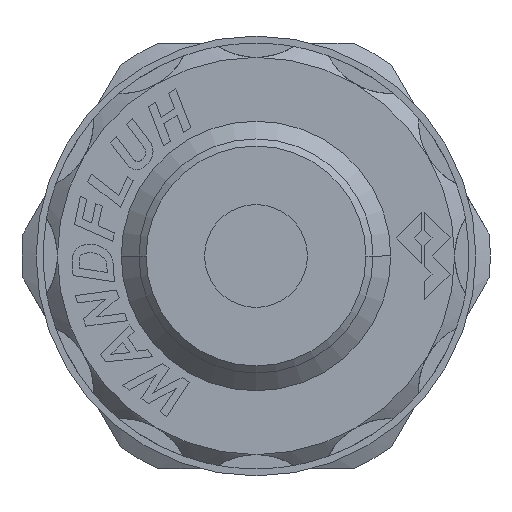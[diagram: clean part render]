
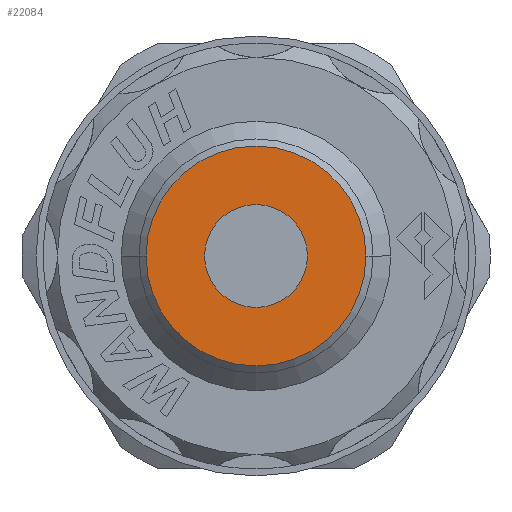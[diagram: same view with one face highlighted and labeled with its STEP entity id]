
A CAD part, left-side view. The second image highlights one B-rep face of the part: STEP entity #22084.
In plain terms, the highlighted planar face has unit normal (-1, 0, 0).
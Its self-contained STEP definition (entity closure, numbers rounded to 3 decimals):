
#6 = EDGE_LOOP ( 'NONE', ( #19441, #19682 ) ) ;
#4300 = CIRCLE ( 'NONE', #11544, 3.625 ) ;
#4573 = CIRCLE ( 'NONE', #11657, 7.75 ) ;
#6349 = CARTESIAN_POINT ( 'NONE',  ( -70.9, 0., 0. ) ) ;
#6351 = DIRECTION ( 'NONE',  ( -1., 0., 0. ) ) ;
#6353 = DIRECTION ( 'NONE',  ( 0., -1., 0. ) ) ;
#6403 = CARTESIAN_POINT ( 'NONE',  ( -70.9, -3.625, 0. ) ) ;
#6512 = CARTESIAN_POINT ( 'NONE',  ( -70.9, 3.625, 0. ) ) ;
#6514 = CARTESIAN_POINT ( 'NONE',  ( -70.9, 7.75, 0. ) ) ;
#6617 = CARTESIAN_POINT ( 'NONE',  ( -70.9, -7.75, 0. ) ) ;
#7309 = CARTESIAN_POINT ( 'NONE',  ( -70.9, 0., 0. ) ) ;
#7310 = DIRECTION ( 'NONE',  ( -1., 0., 0. ) ) ;
#7311 = DIRECTION ( 'NONE',  ( 0., -1., 0. ) ) ;
#7433 = CARTESIAN_POINT ( 'NONE',  ( -70.9, 0., 0. ) ) ;
#7434 = DIRECTION ( 'NONE',  ( -1., 0., 0. ) ) ;
#7435 = DIRECTION ( 'NONE',  ( 0., -1., 0. ) ) ;
#8307 = CARTESIAN_POINT ( 'NONE',  ( -70.9, 0., 0. ) ) ;
#8308 = DIRECTION ( 'NONE',  ( -1., 0., 0. ) ) ;
#8309 = DIRECTION ( 'NONE',  ( 0., -1., 0. ) ) ;
#8914 = FACE_OUTER_BOUND ( 'NONE', #6, .T. ) ;
#8918 = FACE_BOUND ( 'NONE', #19771, .T. ) ;
#10447 = EDGE_CURVE ( 'NONE', #20371, #20469, #4300, .T. ) ;
#10581 = EDGE_CURVE ( 'NONE', #20557, #20470, #4573, .T. ) ;
#10686 = EDGE_CURVE ( 'NONE', #20469, #20371, #20186, .T. ) ;
#10723 = EDGE_CURVE ( 'NONE', #20470, #20557, #20343, .T. ) ;
#11544 = AXIS2_PLACEMENT_3D ( 'NONE', #8307, #8308, #8309 ) ;
#11657 = AXIS2_PLACEMENT_3D ( 'NONE', #6349, #6351, #6353 ) ;
#11719 = AXIS2_PLACEMENT_3D ( 'NONE', #7309, #7310, #7311 ) ;
#11745 = AXIS2_PLACEMENT_3D ( 'NONE', #7433, #7434, #7435 ) ;
#14821 = PLANE ( 'NONE',  #17602 ) ;
#14828 = CARTESIAN_POINT ( 'NONE',  ( -70.9, 0., 3.625 ) ) ;
#14829 = DIRECTION ( 'NONE',  ( -1., 0., 0. ) ) ;
#14830 = DIRECTION ( 'NONE',  ( 0., -1., 0. ) ) ;
#17602 = AXIS2_PLACEMENT_3D ( 'NONE', #14828, #14829, #14830 ) ;
#19439 = ORIENTED_EDGE ( 'NONE', *, *, #10686, .F. ) ;
#19441 = ORIENTED_EDGE ( 'NONE', *, *, #10723, .T. ) ;
#19682 = ORIENTED_EDGE ( 'NONE', *, *, #10581, .T. ) ;
#19771 = EDGE_LOOP ( 'NONE', ( #19807, #19439 ) ) ;
#19807 = ORIENTED_EDGE ( 'NONE', *, *, #10447, .F. ) ;
#20186 = CIRCLE ( 'NONE', #11719, 3.625 ) ;
#20343 = CIRCLE ( 'NONE', #11745, 7.75 ) ;
#20371 = VERTEX_POINT ( 'NONE', #6403 ) ;
#20469 = VERTEX_POINT ( 'NONE', #6512 ) ;
#20470 = VERTEX_POINT ( 'NONE', #6514 ) ;
#20557 = VERTEX_POINT ( 'NONE', #6617 ) ;
#22084 = ADVANCED_FACE ( 'NONE', ( #8914, #8918 ), #14821, .T. ) ;
